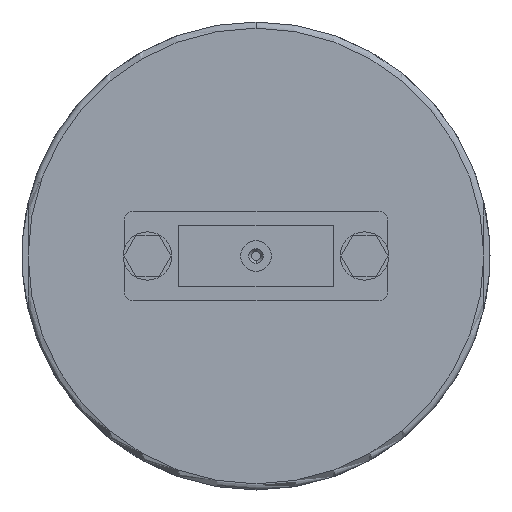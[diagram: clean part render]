
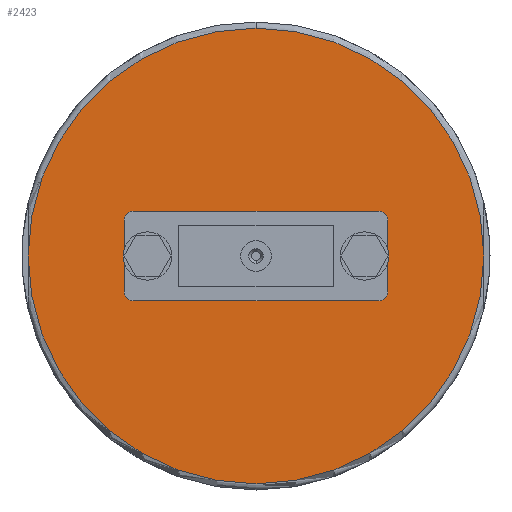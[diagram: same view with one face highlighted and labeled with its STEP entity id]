
A CAD part, front view. The second image highlights one B-rep face of the part: STEP entity #2423.
In plain terms, the highlighted planar face has unit normal (0, -1, 0).
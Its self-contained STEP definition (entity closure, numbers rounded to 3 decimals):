
#120 = DIRECTION ( 'NONE',  ( 0., 0., 1. ) ) ;
#203 = CARTESIAN_POINT ( 'NONE',  ( -35., 110.5, -6. ) ) ;
#297 = DIRECTION ( 'NONE',  ( 0., 0., 1. ) ) ;
#313 = CARTESIAN_POINT ( 'NONE',  ( 35., 110.5, 6. ) ) ;
#338 = AXIS2_PLACEMENT_3D ( 'NONE', #4639, #5124, #120 ) ;
#422 = DIRECTION ( 'NONE',  ( 0., -1., 0. ) ) ;
#557 = CIRCLE ( 'NONE', #2609, 73.5 ) ;
#599 = DIRECTION ( 'NONE',  ( 0., -1., 0. ) ) ;
#661 = EDGE_CURVE ( 'NONE', #6290, #2528, #5549, .T. ) ;
#666 = FACE_OUTER_BOUND ( 'NONE', #5426, .T. ) ;
#784 = ORIENTED_EDGE ( 'NONE', *, *, #1764, .F. ) ;
#922 = VERTEX_POINT ( 'NONE', #1571 ) ;
#975 = AXIS2_PLACEMENT_3D ( 'NONE', #1701, #3763, #2752 ) ;
#1053 = DIRECTION ( 'NONE',  ( 0., 0., 1. ) ) ;
#1071 = DIRECTION ( 'NONE',  ( 0., 0., 1. ) ) ;
#1088 = CARTESIAN_POINT ( 'NONE',  ( -35., 110.5, 0. ) ) ;
#1093 = ORIENTED_EDGE ( 'NONE', *, *, #4935, .T. ) ;
#1108 = CARTESIAN_POINT ( 'NONE',  ( 0., 110.5, 0. ) ) ;
#1245 = ORIENTED_EDGE ( 'NONE', *, *, #5624, .T. ) ;
#1285 = AXIS2_PLACEMENT_3D ( 'NONE', #1088, #3721, #1053 ) ;
#1300 = CIRCLE ( 'NONE', #4967, 73.5 ) ;
#1436 = EDGE_CURVE ( 'NONE', #3439, #2932, #1300, .T. ) ;
#1481 = EDGE_CURVE ( 'NONE', #5269, #922, #3353, .T. ) ;
#1493 = CIRCLE ( 'NONE', #5159, 73.5 ) ;
#1494 = DIRECTION ( 'NONE',  ( 0., -1., 0. ) ) ;
#1571 = CARTESIAN_POINT ( 'NONE',  ( 0., 110.5, -10. ) ) ;
#1701 = CARTESIAN_POINT ( 'NONE',  ( 0., 110.5, 0. ) ) ;
#1733 = AXIS2_PLACEMENT_3D ( 'NONE', #3909, #422, #5093 ) ;
#1764 = EDGE_CURVE ( 'NONE', #2394, #3508, #5402, .T. ) ;
#1833 = EDGE_LOOP ( 'NONE', ( #784, #6242 ) ) ;
#1875 = EDGE_CURVE ( 'NONE', #922, #5269, #5083, .T. ) ;
#2038 = DIRECTION ( 'NONE',  ( 0., 1., 0. ) ) ;
#2039 = EDGE_LOOP ( 'NONE', ( #3400, #2343 ) ) ;
#2333 = CIRCLE ( 'NONE', #5663, 6. ) ;
#2343 = ORIENTED_EDGE ( 'NONE', *, *, #1481, .F. ) ;
#2394 = VERTEX_POINT ( 'NONE', #2461 ) ;
#2423 = ADVANCED_FACE ( 'NONE', ( #666, #5650, #6259, #4115 ), #2661, .F. ) ;
#2426 = VERTEX_POINT ( 'NONE', #5299 ) ;
#2461 = CARTESIAN_POINT ( 'NONE',  ( 35., 110.5, -6. ) ) ;
#2528 = VERTEX_POINT ( 'NONE', #4208 ) ;
#2594 = DIRECTION ( 'NONE',  ( 0., 1., 0. ) ) ;
#2609 = AXIS2_PLACEMENT_3D ( 'NONE', #3615, #1494, #4027 ) ;
#2649 = AXIS2_PLACEMENT_3D ( 'NONE', #4035, #2038, #3117 ) ;
#2661 = PLANE ( 'NONE',  #2871 ) ;
#2752 = DIRECTION ( 'NONE',  ( 0., 0., 1. ) ) ;
#2846 = EDGE_CURVE ( 'NONE', #3508, #2394, #2333, .T. ) ;
#2871 = AXIS2_PLACEMENT_3D ( 'NONE', #1108, #2594, #1071 ) ;
#2932 = VERTEX_POINT ( 'NONE', #4366 ) ;
#3117 = DIRECTION ( 'NONE',  ( 0., 0., 1. ) ) ;
#3250 = CARTESIAN_POINT ( 'NONE',  ( -73.5, 110.5, 0. ) ) ;
#3254 = CARTESIAN_POINT ( 'NONE',  ( 0., 110.5, 10. ) ) ;
#3353 = CIRCLE ( 'NONE', #1733, 10. ) ;
#3388 = ORIENTED_EDGE ( 'NONE', *, *, #4475, .T. ) ;
#3400 = ORIENTED_EDGE ( 'NONE', *, *, #1875, .F. ) ;
#3439 = VERTEX_POINT ( 'NONE', #3250 ) ;
#3508 = VERTEX_POINT ( 'NONE', #313 ) ;
#3546 = CIRCLE ( 'NONE', #1285, 6. ) ;
#3615 = CARTESIAN_POINT ( 'NONE',  ( 0., 110.5, 0. ) ) ;
#3699 = DIRECTION ( 'NONE',  ( 0., 0., 1. ) ) ;
#3721 = DIRECTION ( 'NONE',  ( 0., 1., 0. ) ) ;
#3763 = DIRECTION ( 'NONE',  ( 0., -1., 0. ) ) ;
#3909 = CARTESIAN_POINT ( 'NONE',  ( 0., 110.5, 0. ) ) ;
#4027 = DIRECTION ( 'NONE',  ( 0., 0., 1. ) ) ;
#4035 = CARTESIAN_POINT ( 'NONE',  ( -35., 110.5, 0. ) ) ;
#4115 = FACE_BOUND ( 'NONE', #5167, .T. ) ;
#4119 = CARTESIAN_POINT ( 'NONE',  ( 0., 110.5, 0. ) ) ;
#4208 = CARTESIAN_POINT ( 'NONE',  ( -35., 110.5, 6. ) ) ;
#4274 = CARTESIAN_POINT ( 'NONE',  ( 0., 110.5, 0. ) ) ;
#4366 = CARTESIAN_POINT ( 'NONE',  ( 73.5, 110.5, 0. ) ) ;
#4475 = EDGE_CURVE ( 'NONE', #2528, #6290, #3546, .T. ) ;
#4587 = ORIENTED_EDGE ( 'NONE', *, *, #1436, .T. ) ;
#4639 = CARTESIAN_POINT ( 'NONE',  ( 35., 110.5, 0. ) ) ;
#4705 = DIRECTION ( 'NONE',  ( 0., -1., 0. ) ) ;
#4935 = EDGE_CURVE ( 'NONE', #2932, #2426, #1493, .T. ) ;
#4967 = AXIS2_PLACEMENT_3D ( 'NONE', #4274, #5388, #297 ) ;
#5083 = CIRCLE ( 'NONE', #975, 10. ) ;
#5093 = DIRECTION ( 'NONE',  ( 0., 0., 1. ) ) ;
#5124 = DIRECTION ( 'NONE',  ( 0., -1., 0. ) ) ;
#5159 = AXIS2_PLACEMENT_3D ( 'NONE', #4119, #599, #5268 ) ;
#5167 = EDGE_LOOP ( 'NONE', ( #6472, #3388 ) ) ;
#5268 = DIRECTION ( 'NONE',  ( 0., 0., 1. ) ) ;
#5269 = VERTEX_POINT ( 'NONE', #3254 ) ;
#5299 = CARTESIAN_POINT ( 'NONE',  ( 0., 110.5, 73.5 ) ) ;
#5388 = DIRECTION ( 'NONE',  ( 0., -1., 0. ) ) ;
#5402 = CIRCLE ( 'NONE', #338, 6. ) ;
#5426 = EDGE_LOOP ( 'NONE', ( #4587, #1093, #1245 ) ) ;
#5549 = CIRCLE ( 'NONE', #2649, 6. ) ;
#5624 = EDGE_CURVE ( 'NONE', #2426, #3439, #557, .T. ) ;
#5650 = FACE_BOUND ( 'NONE', #2039, .T. ) ;
#5663 = AXIS2_PLACEMENT_3D ( 'NONE', #6211, #4705, #3699 ) ;
#6211 = CARTESIAN_POINT ( 'NONE',  ( 35., 110.5, 0. ) ) ;
#6242 = ORIENTED_EDGE ( 'NONE', *, *, #2846, .F. ) ;
#6259 = FACE_BOUND ( 'NONE', #1833, .T. ) ;
#6290 = VERTEX_POINT ( 'NONE', #203 ) ;
#6472 = ORIENTED_EDGE ( 'NONE', *, *, #661, .T. ) ;
